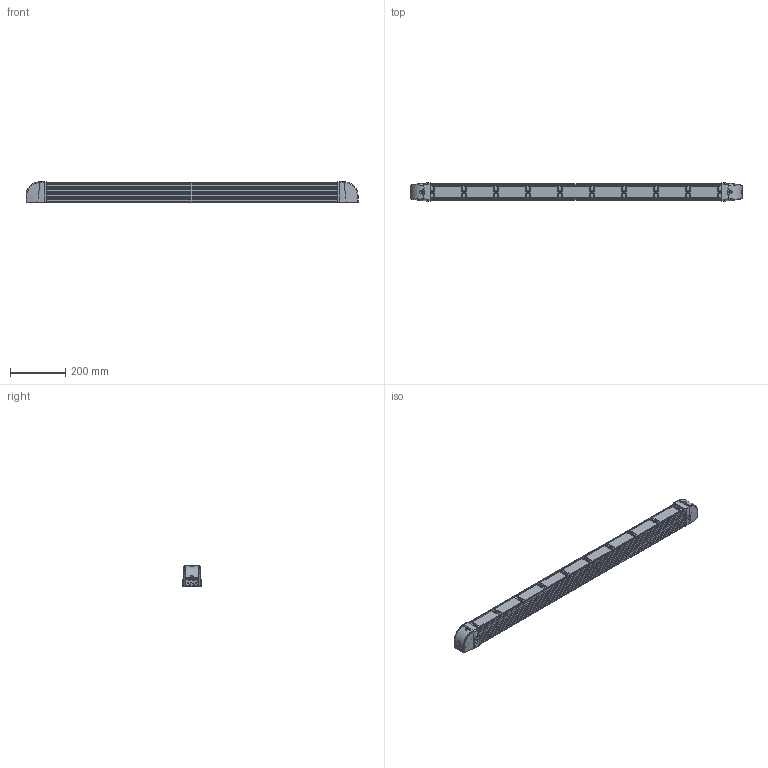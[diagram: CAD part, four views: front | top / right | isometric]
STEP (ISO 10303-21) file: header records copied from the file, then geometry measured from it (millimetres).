
FILE_DESCRIPTION (( 'STEP AP214' ), '1' );
FILE_NAME ('975L-4809-C01.STEP', '2020-07-23T21:45:19', ( '' ), ( '' ), 'SwSTEP 2.0', 'SolidWorks 2018', '' );
FILE_SCHEMA (( 'AUTOMOTIVE_DESIGN' ));
Length unit declared in the file: inch
Products named in the file (1): 975L-4809-C01
Bounding box: 1201.4 x 66.55 x 73.66 mm (x, y, z)
Volume: 4189221.8 mm3; surface area: 593008.5 mm2
Topology: 1 solids, 9 shells, 3385 faces, 9389 edges, 6017 vertices
Faces by surface type: plane 1645, cylinder 852, bspline 554, cone 294, torus 32, sphere 8
Entity records: 122875 total; most frequent: CARTESIAN_POINT 43176, ORIENTED_EDGE 18778, DIRECTION 13582, EDGE_CURVE 9389, VERTEX_POINT 6017, LINE 5106, VECTOR 5106, AXIS2_PLACEMENT_3D 4238
